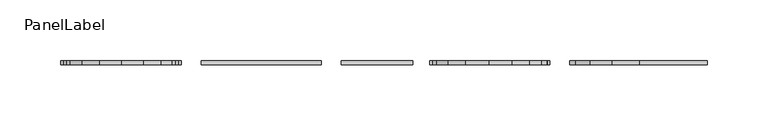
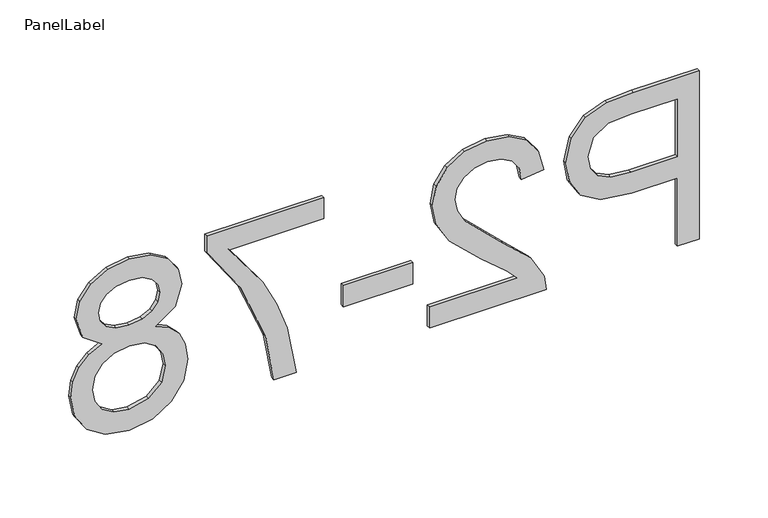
"""IFC4 building model written with IfcOpenShell, lengths in millimetres: fastener geometry, PanelLabel : Miranda."""

from ifc_helpers import new_model, si_unit, frame, origin, place, context, project, spatial, polyline, outline, extrude, source, transform, mapped, element, save


def panellabel_0102b043(model_context):
    return source(origin(), model_context, "Body", "SweptSolid", [
        extrude(outline(polyline([(1310.9113766, 260.2523077), (1460.9667612, 260.2523077), (1460.9667612, 204.6409615), (1459.5380112, 182.2205769), (1452.5224823, 163.9948558), (1438.0151747, 152.1801923), (1417.554742, 147.7107692), (1399.8693814, 150.7285457), (1385.1331073, 159.781875), (1375.1868093, 176.7116466), (1371.8713766, 203.35875), (1371.8713766, 241.4953846), (1310.9113766, 241.4953846), (1310.9113766, 260.2523077)]), holes=[polyline([(1390.6282997, 241.4953846), (1390.6282997, 202.2597115), (1392.3501266, 185.6275962), (1397.5156073, 174.6372115), (1405.8041891, 168.5100721), (1416.8953189, 166.4676923), (1432.4283958, 171.2851442), (1440.9276266, 183.9424038), (1442.2098381, 202.6993269), (1442.2098381, 241.4953846), (1390.6282997, 241.4953846)])]), frame((0.0, 52.3875, 0.0), z_axis=(0.0, 1.0, 0.0), x_axis=(0.0, 0.0, 1.0)), (0.0, 0.0, 1.0), 3.175),
        extrude(outline(polyline([(1329.6682997, 32.8246154), (1310.9113766, 32.8246154), (1310.9113766, 131.2984615), (1323.8433958, 129.2835577), (1343.7543093, 117.8901923), (1365.4969535, 94.4074038), (1396.7462804, 62.0224038), (1407.5168573, 55.9502163), (1417.9943573, 53.9261538), (1427.3865569, 55.8357332), (1435.1943093, 61.5644712), (1440.4559559, 70.3705168), (1442.2098381, 81.5120192), (1440.4971698, 93.2121995), (1435.359165, 102.3021635), (1427.1988045, 108.1682813), (1416.4190689, 110.1969231), (1418.7636843, 128.9538462), (1436.9069775, 124.4065745), (1450.1595497, 114.5747596), (1458.2649583, 99.9712861), (1460.9667612, 81.1090385), (1457.9627227, 62.1094111), (1448.9506073, 47.5334135), (1435.4873862, 38.2602764), (1419.1300304, 35.1692308), (1401.3439247, 38.5029808), (1382.9533477, 49.5849519), (1357.254165, 76.4564423), (1339.211617, 98.0342308), (1329.6682997, 106.4968269), (1329.6682997, 32.8246154)])), frame((0.0, 52.3875, 0.0), z_axis=(0.0, 1.0, 0.0), x_axis=(0.0, 0.0, 1.0)), (0.0, 0.0, 1.0), 3.175),
        extrude(outline(polyline([(-39.8584615, 55.5625), (18.7569231, 55.5625), (18.7569231, 52.3875), (-39.8584615, 52.3875), (-39.8584615, 55.5625)])), frame((0.0, 0.0, 1355.4590689), z_axis=(0.0, 0.0, 1.0), x_axis=(1.0, 0.0, 0.0)), (0.0, 0.0, 1.0), 18.7569231),
        extrude(outline(polyline([(1439.8652227, -56.2707692), (1458.6221458, -56.2707692), (1458.6221458, -154.7446154), (1443.455415, -154.7446154), (1403.1023862, -126.8107212), (1351.6857035, -105.4344231), (1310.9113766, -98.4738462), (1310.9113766, -79.7169231), (1353.2243573, -87.1720673), (1377.5817972, -95.8498918), (1401.0508477, -107.6325), (1439.8652227, -135.9876923), (1439.8652227, -56.2707692)])), frame((0.0, 52.3875, 0.0), z_axis=(0.0, 1.0, 0.0), x_axis=(0.0, 0.0, 1.0)), (0.0, 0.0, 1.0), 3.175),
        extrude(outline(polyline([(1393.5590689, -198.4863462), (1405.2088766, -181.3962981), (1423.3430112, -175.8461538), (1438.006016, -178.8685096), (1450.122915, -187.9355769), (1458.2557997, -202.0307452), (1460.9667612, -220.1374038), (1458.1916891, -238.3539663), (1449.8664727, -252.6323077), (1437.557242, -261.8642308), (1422.8301266, -264.9415385), (1405.1539247, -259.4646635), (1393.5590689, -242.8508654), (1387.6105232, -254.3953486), (1378.8502708, -262.7984135), (1367.6996097, -267.9226803), (1354.5798381, -269.6307692), (1336.6471939, -266.2420673), (1321.828492, -256.0759615), (1311.8821939, -240.3780288), (1308.5667612, -220.3938462), (1311.8959319, -200.4096635), (1321.8834439, -184.7117308), (1336.8441049, -174.545625), (1355.0927227, -171.1569231), (1368.7207997, -172.9337019), (1379.930992, -178.2640385), (1388.3386362, -186.8731731), (1393.5590689, -198.4863462)]), holes=[polyline([(1422.793492, -194.6030769), (1414.6056554, -196.2653726), (1408.0663766, -201.2522596), (1403.7801266, -209.4171995), (1402.3513766, -220.6136538), (1403.7709679, -231.5490865), (1408.029742, -239.5903846), (1414.3492131, -244.5360577), (1421.9508958, -246.1846154), (1429.8410761, -244.4811058), (1436.366617, -239.3705769), (1440.7490328, -231.219375), (1442.2098381, -220.3938462), (1440.7810881, -209.4996274), (1436.4948381, -201.3621635), (1430.2120016, -196.2928486), (1422.793492, -194.6030769)]), polyline([(1355.7521458, -189.9138462), (1341.6295016, -193.0461058), (1331.060415, -204.1280769), (1327.3236843, -220.5403846), (1329.2882155, -233.3075481), (1335.1818093, -242.8875), (1344.1069174, -248.8772596), (1355.165992, -250.8738462), (1366.4128189, -248.813149), (1375.5348381, -242.6310577), (1381.5795497, -232.8312981), (1383.5944535, -219.9175962), (1381.6070256, -207.3290264), (1375.644742, -197.8452404), (1366.6967372, -191.8966947), (1355.7521458, -189.9138462)])]), frame((0.0, 52.3875, 0.0), z_axis=(0.0, 1.0, 0.0), x_axis=(0.0, 0.0, 1.0)), (0.0, 0.0, 1.0), 3.175),
    ])


if __name__ == "__main__":
    model = new_model("IFC4")
    model_context = context("Model", 3, world=origin())
    ifc_project = project(units=[si_unit("LENGTHUNIT", "METRE", prefix="MILLI")], contexts=[model_context])
    site = spatial("IfcSite", under=ifc_project)
    building = spatial("IfcBuilding", under=site)
    placement = place(None, origin())
    panellabel_shape = panellabel_0102b043(model_context)
    element("IfcFastener", 1, ObjectType="PanelLabel : Miranda", at=placement, inside=building, context=model_context, shape_type="MappedRepresentation", body=[
        mapped(panellabel_shape, transform((0.0, 0.0, 0.0), x_axis=(1.0, 0.0, 0.0), y_axis=(0.0, 1.0, 0.0), z_axis=(0.0, 0.0, 1.0))),
    ])
    save(model, "model.ifc")
